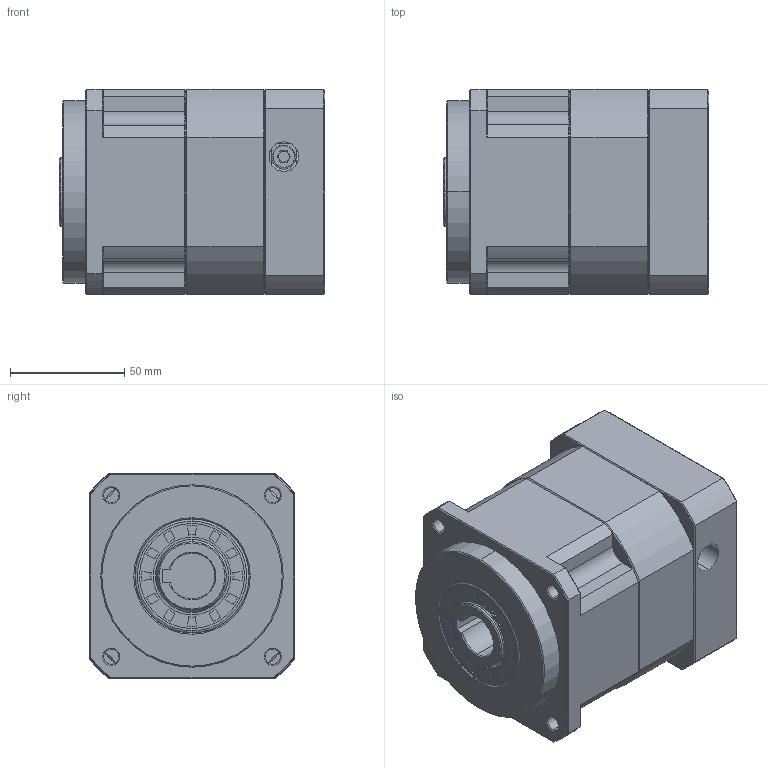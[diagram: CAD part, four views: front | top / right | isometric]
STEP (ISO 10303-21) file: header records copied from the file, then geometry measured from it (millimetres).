
FILE_DESCRIPTION (( 'STEP AP214' ), '1' );
FILE_NAME ('ZPB090-K20-L1-P1-14-80-100-M6.step', '2024-06-07T18:23:56', ( 'Windows 蚚誧' ), ( 'Organization' ), 'SwSTEP 2.0', 'SolidWorks 2016', '' );
FILE_SCHEMA (( 'AUTOMOTIVE_DESIGN' ));
Length unit declared in the file: millimetre
Products named in the file (1): ZPB090-K20-L1-P1-14-80-100-M6
Bounding box: 116.5 x 90 x 90 mm (x, y, z)
Surface area: 74854.7 mm2 (no closed solid volume)
Topology: 0 solids, 34 shells, 1794 faces, 4794 edges, 3066 vertices
Faces by surface type: plane 929, bspline 382, cone 270, cylinder 213
Entity records: 86579 total; most frequent: CARTESIAN_POINT 40068, ORIENTED_EDGE 9568, DIRECTION 7365, EDGE_CURVE 4794, VECTOR 3177, LINE 3177, VERTEX_POINT 3066, AXIS2_PLACEMENT_3D 2094
